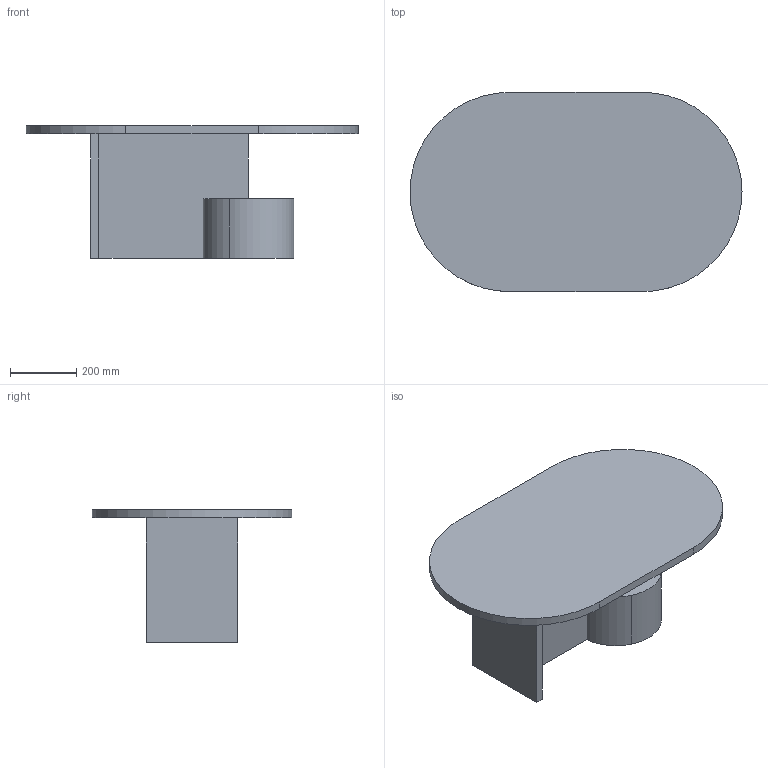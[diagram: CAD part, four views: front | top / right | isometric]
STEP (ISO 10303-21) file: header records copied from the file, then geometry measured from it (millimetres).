
FILE_DESCRIPTION(/* description */ (''),/* implementation_level */ '2;1');
FILE_NAME(/* name */ 'ICBDNG~K',/* time_stamp */ '2020-10-07T15:01:18+02:00',/* author */ (''),/* organization */ (''),/* preprocessor_version */ 'ST-DEVELOPER v16.5',/* originating_system */ '',/* authorisation */ '');
FILE_SCHEMA (('AUTOMOTIVE_DESIGN'));
Length unit declared in the file: millimetre
Products named in the file (1): Document
Bounding box: 1000 x 600 x 400 mm (x, y, z)
Volume: 30623847.5 mm3; surface area: 2007741.5 mm2
Topology: 4 solids, 4 shells, 22 faces, 43 edges, 29 vertices
Faces by surface type: plane 16, bspline 6
Entity records: 594 total; most frequent: CARTESIAN_POINT 224, ORIENTED_EDGE 84, EDGE_CURVE 42, VERTEX_POINT 28, B_SPLINE_CURVE_WITH_KNOTS 24, ADVANCED_FACE 22, FACE_OUTER_BOUND 22, EDGE_LOOP 22
